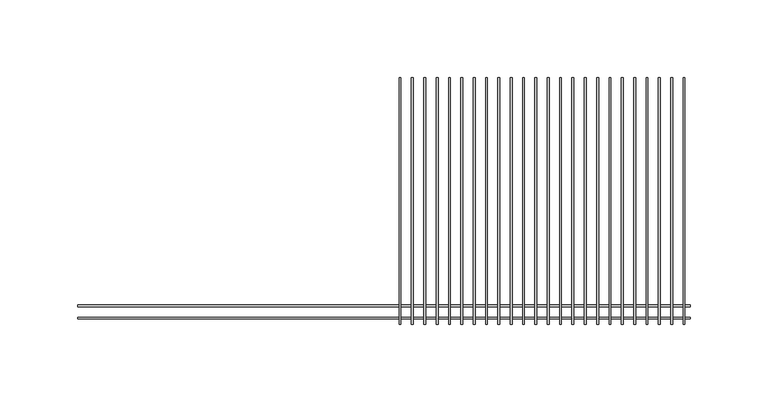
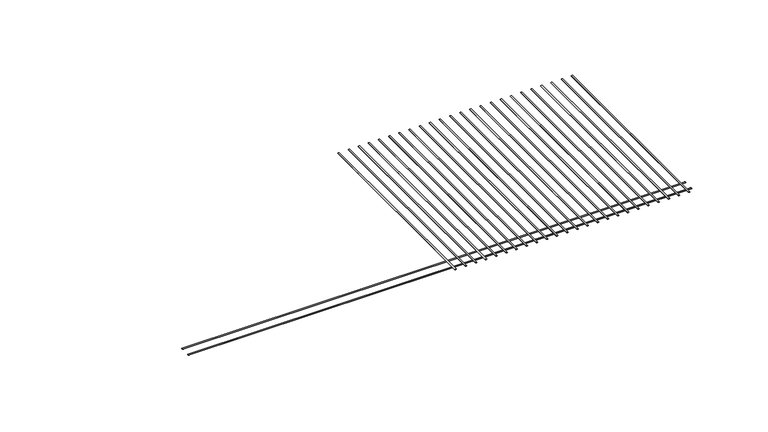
"""IFC4 building model written with IfcOpenShell, lengths in millimetres: proxy geometry, CRAi Generic Model Mesh Piece Face Based : CRAi Generic Model Mesh Piece Face Based."""

from ifc_helpers import new_model, si_unit, point, frame, origin, place, context, project, spatial, ellipse_curve, trimmed, source, transform, mapped, element, save
from ifc_brep_helpers import plane_surface, extruded_surface, advanced_brep


def generic_models_388356b2(model_context):
    return source(origin(), model_context, "Body", "AdvancedBrep", [
        advanced_brep(
        [(9.7234375, 79.3253906, -2.5796875), (10.9140625, 79.3253906, -2.5796875), (9.7234375, -79.3253906, -2.5796875), (10.9140625, -79.3253906, -2.5796875)],
        [
            (0, 1, ellipse_curve(frame((10.31875, 79.3253906, -2.5796875), z_axis=(0.0, 1.0, 0.0), x_axis=(1.0, 0.0, 0.0)), 0.5953125, 0.1984375)),
            (1, 0, ellipse_curve(frame((10.31875, 79.3253906, -2.5796875), z_axis=(0.0, 1.0, 0.0), x_axis=(1.0, 0.0, 0.0)), 0.5953125, 0.1984375)),
            (2, 3, ellipse_curve(frame((10.31875, -79.3253906, -2.5796875), z_axis=(0.0, -1.0, 0.0), x_axis=(1.0, 0.0, 0.0)), 0.5953125, 0.1984375)),
            (3, 2, ellipse_curve(frame((10.31875, -79.3253906, -2.5796875), z_axis=(0.0, -1.0, 0.0), x_axis=(1.0, 0.0, 0.0)), 0.5953125, 0.1984375)),
            (1, 3),
            (2, 0),
        ],
        [
            plane_surface(frame((10.31875, 79.3253906, -2.5796875), z_axis=(0.0, 1.0, 0.0), x_axis=(0.0, 0.0, 1.0))),
            plane_surface(frame((10.31875, -79.3253906, -2.5796875), z_axis=(0.0, -1.0, 0.0), x_axis=(0.0, 0.0, 1.0))),
            extruded_surface(trimmed(ellipse_curve(frame((10.31875, 79.3253906, -2.5796875), z_axis=(0.0, -1.0, 0.0), x_axis=(1.0, 0.0, 0.0)), 0.5953125, 0.1984375), [point((9.7234375, 79.3253906, -2.5796875))], [point((10.9140625, 79.3253906, -2.5796875))], True, "CARTESIAN"), (0.0, -158.6507812, 0.0), 158.6507812),
            extruded_surface(trimmed(ellipse_curve(frame((10.31875, 79.3253906, -2.5796875), z_axis=(0.0, -1.0, 0.0), x_axis=(1.0, 0.0, 0.0)), 0.5953125, 0.1984375), [point((10.9140625, 79.3253906, -2.5796875))], [point((9.7234375, 79.3253906, -2.5796875))], True, "CARTESIAN"), (0.0, -158.6507812, 0.0), 158.6507812),
        ],
        [
            (0, [[1, 2]]),
            (1, [[3, 4]]),
            (2, [[5, -3, 6, -2]]),
            (3, [[-6, -4, -5, -1]]),
        ],
    ),
        advanced_brep(
        [(17.6609375, 79.3253906, -2.5796875), (18.8515625, 79.3253906, -2.5796875), (17.6609375, -79.3253906, -2.5796875), (18.8515625, -79.3253906, -2.5796875)],
        [
            (0, 1, ellipse_curve(frame((18.25625, 79.3253906, -2.5796875), z_axis=(0.0, 1.0, 0.0), x_axis=(1.0, 0.0, 0.0)), 0.5953125, 0.1984375)),
            (1, 0, ellipse_curve(frame((18.25625, 79.3253906, -2.5796875), z_axis=(0.0, 1.0, 0.0), x_axis=(1.0, 0.0, 0.0)), 0.5953125, 0.1984375)),
            (2, 3, ellipse_curve(frame((18.25625, -79.3253906, -2.5796875), z_axis=(0.0, -1.0, 0.0), x_axis=(1.0, 0.0, 0.0)), 0.5953125, 0.1984375)),
            (3, 2, ellipse_curve(frame((18.25625, -79.3253906, -2.5796875), z_axis=(0.0, -1.0, 0.0), x_axis=(1.0, 0.0, 0.0)), 0.5953125, 0.1984375)),
            (1, 3),
            (2, 0),
        ],
        [
            plane_surface(frame((18.25625, 79.3253906, -2.5796875), z_axis=(0.0, 1.0, 0.0), x_axis=(0.0, 0.0, 1.0))),
            plane_surface(frame((18.25625, -79.3253906, -2.5796875), z_axis=(0.0, -1.0, 0.0), x_axis=(0.0, 0.0, 1.0))),
            extruded_surface(trimmed(ellipse_curve(frame((18.25625, 79.3253906, -2.5796875), z_axis=(0.0, -1.0, 0.0), x_axis=(1.0, 0.0, 0.0)), 0.5953125, 0.1984375), [point((17.6609375, 79.3253906, -2.5796875))], [point((18.8515625, 79.3253906, -2.5796875))], True, "CARTESIAN"), (0.0, -158.6507812, 0.0), 158.6507812),
            extruded_surface(trimmed(ellipse_curve(frame((18.25625, 79.3253906, -2.5796875), z_axis=(0.0, -1.0, 0.0), x_axis=(1.0, 0.0, 0.0)), 0.5953125, 0.1984375), [point((18.8515625, 79.3253906, -2.5796875))], [point((17.6609375, 79.3253906, -2.5796875))], True, "CARTESIAN"), (0.0, -158.6507812, 0.0), 158.6507812),
        ],
        [
            (0, [[1, 2]]),
            (1, [[3, 4]]),
            (2, [[5, -3, 6, -2]]),
            (3, [[-6, -4, -5, -1]]),
        ],
    ),
        advanced_brep(
        [(25.5984375, 79.3253906, -2.5796875), (26.7890625, 79.3253906, -2.5796875), (25.5984375, -79.3253906, -2.5796875), (26.7890625, -79.3253906, -2.5796875)],
        [
            (0, 1, ellipse_curve(frame((26.19375, 79.3253906, -2.5796875), z_axis=(0.0, 1.0, 0.0), x_axis=(1.0, 0.0, 0.0)), 0.5953125, 0.1984375)),
            (1, 0, ellipse_curve(frame((26.19375, 79.3253906, -2.5796875), z_axis=(0.0, 1.0, 0.0), x_axis=(1.0, 0.0, 0.0)), 0.5953125, 0.1984375)),
            (2, 3, ellipse_curve(frame((26.19375, -79.3253906, -2.5796875), z_axis=(0.0, -1.0, 0.0), x_axis=(1.0, 0.0, 0.0)), 0.5953125, 0.1984375)),
            (3, 2, ellipse_curve(frame((26.19375, -79.3253906, -2.5796875), z_axis=(0.0, -1.0, 0.0), x_axis=(1.0, 0.0, 0.0)), 0.5953125, 0.1984375)),
            (1, 3),
            (2, 0),
        ],
        [
            plane_surface(frame((26.19375, 79.3253906, -2.5796875), z_axis=(0.0, 1.0, 0.0), x_axis=(0.0, 0.0, 1.0))),
            plane_surface(frame((26.19375, -79.3253906, -2.5796875), z_axis=(0.0, -1.0, 0.0), x_axis=(0.0, 0.0, 1.0))),
            extruded_surface(trimmed(ellipse_curve(frame((26.19375, 79.3253906, -2.5796875), z_axis=(0.0, -1.0, 0.0), x_axis=(1.0, 0.0, 0.0)), 0.5953125, 0.1984375), [point((25.5984375, 79.3253906, -2.5796875))], [point((26.7890625, 79.3253906, -2.5796875))], True, "CARTESIAN"), (0.0, -158.6507812, 0.0), 158.6507812),
            extruded_surface(trimmed(ellipse_curve(frame((26.19375, 79.3253906, -2.5796875), z_axis=(0.0, -1.0, 0.0), x_axis=(1.0, 0.0, 0.0)), 0.5953125, 0.1984375), [point((26.7890625, 79.3253906, -2.5796875))], [point((25.5984375, 79.3253906, -2.5796875))], True, "CARTESIAN"), (0.0, -158.6507812, 0.0), 158.6507812),
        ],
        [
            (0, [[1, 2]]),
            (1, [[3, 4]]),
            (2, [[5, -3, 6, -2]]),
            (3, [[-6, -4, -5, -1]]),
        ],
    ),
        advanced_brep(
        [(33.5359375, 79.3253906, -2.5796875), (34.7265625, 79.3253906, -2.5796875), (33.5359375, -79.3253906, -2.5796875), (34.7265625, -79.3253906, -2.5796875)],
        [
            (0, 1, ellipse_curve(frame((34.13125, 79.3253906, -2.5796875), z_axis=(0.0, 1.0, 0.0), x_axis=(1.0, 0.0, 0.0)), 0.5953125, 0.1984375)),
            (1, 0, ellipse_curve(frame((34.13125, 79.3253906, -2.5796875), z_axis=(0.0, 1.0, 0.0), x_axis=(1.0, 0.0, 0.0)), 0.5953125, 0.1984375)),
            (2, 3, ellipse_curve(frame((34.13125, -79.3253906, -2.5796875), z_axis=(0.0, -1.0, 0.0), x_axis=(1.0, 0.0, 0.0)), 0.5953125, 0.1984375)),
            (3, 2, ellipse_curve(frame((34.13125, -79.3253906, -2.5796875), z_axis=(0.0, -1.0, 0.0), x_axis=(1.0, 0.0, 0.0)), 0.5953125, 0.1984375)),
            (1, 3),
            (2, 0),
        ],
        [
            plane_surface(frame((34.13125, 79.3253906, -2.5796875), z_axis=(0.0, 1.0, 0.0), x_axis=(0.0, 0.0, 1.0))),
            plane_surface(frame((34.13125, -79.3253906, -2.5796875), z_axis=(0.0, -1.0, 0.0), x_axis=(0.0, 0.0, 1.0))),
            extruded_surface(trimmed(ellipse_curve(frame((34.13125, 79.3253906, -2.5796875), z_axis=(0.0, -1.0, 0.0), x_axis=(1.0, 0.0, 0.0)), 0.5953125, 0.1984375), [point((33.5359375, 79.3253906, -2.5796875))], [point((34.7265625, 79.3253906, -2.5796875))], True, "CARTESIAN"), (0.0, -158.6507812, 0.0), 158.6507812),
            extruded_surface(trimmed(ellipse_curve(frame((34.13125, 79.3253906, -2.5796875), z_axis=(0.0, -1.0, 0.0), x_axis=(1.0, 0.0, 0.0)), 0.5953125, 0.1984375), [point((34.7265625, 79.3253906, -2.5796875))], [point((33.5359375, 79.3253906, -2.5796875))], True, "CARTESIAN"), (0.0, -158.6507812, 0.0), 158.6507812),
        ],
        [
            (0, [[1, 2]]),
            (1, [[3, 4]]),
            (2, [[5, -3, 6, -2]]),
            (3, [[-6, -4, -5, -1]]),
        ],
    ),
        advanced_brep(
        [(41.4734375, 79.3253906, -2.5796875), (42.6640625, 79.3253906, -2.5796875), (41.4734375, -79.3253906, -2.5796875), (42.6640625, -79.3253906, -2.5796875)],
        [
            (0, 1, ellipse_curve(frame((42.06875, 79.3253906, -2.5796875), z_axis=(0.0, 1.0, 0.0), x_axis=(1.0, 0.0, 0.0)), 0.5953125, 0.1984375)),
            (1, 0, ellipse_curve(frame((42.06875, 79.3253906, -2.5796875), z_axis=(0.0, 1.0, 0.0), x_axis=(1.0, 0.0, 0.0)), 0.5953125, 0.1984375)),
            (2, 3, ellipse_curve(frame((42.06875, -79.3253906, -2.5796875), z_axis=(0.0, -1.0, 0.0), x_axis=(1.0, 0.0, 0.0)), 0.5953125, 0.1984375)),
            (3, 2, ellipse_curve(frame((42.06875, -79.3253906, -2.5796875), z_axis=(0.0, -1.0, 0.0), x_axis=(1.0, 0.0, 0.0)), 0.5953125, 0.1984375)),
            (1, 3),
            (2, 0),
        ],
        [
            plane_surface(frame((42.06875, 79.3253906, -2.5796875), z_axis=(0.0, 1.0, 0.0), x_axis=(0.0, 0.0, 1.0))),
            plane_surface(frame((42.06875, -79.3253906, -2.5796875), z_axis=(0.0, -1.0, 0.0), x_axis=(0.0, 0.0, 1.0))),
            extruded_surface(trimmed(ellipse_curve(frame((42.06875, 79.3253906, -2.5796875), z_axis=(0.0, -1.0, 0.0), x_axis=(1.0, 0.0, 0.0)), 0.5953125, 0.1984375), [point((41.4734375, 79.3253906, -2.5796875))], [point((42.6640625, 79.3253906, -2.5796875))], True, "CARTESIAN"), (0.0, -158.6507812, 0.0), 158.6507812),
            extruded_surface(trimmed(ellipse_curve(frame((42.06875, 79.3253906, -2.5796875), z_axis=(0.0, -1.0, 0.0), x_axis=(1.0, 0.0, 0.0)), 0.5953125, 0.1984375), [point((42.6640625, 79.3253906, -2.5796875))], [point((41.4734375, 79.3253906, -2.5796875))], True, "CARTESIAN"), (0.0, -158.6507812, 0.0), 158.6507812),
        ],
        [
            (0, [[1, 2]]),
            (1, [[3, 4]]),
            (2, [[5, -3, 6, -2]]),
            (3, [[-6, -4, -5, -1]]),
        ],
    ),
        advanced_brep(
        [(49.4109375, 79.3253906, -2.5796875), (50.6015625, 79.3253906, -2.5796875), (49.4109375, -79.3253906, -2.5796875), (50.6015625, -79.3253906, -2.5796875)],
        [
            (0, 1, ellipse_curve(frame((50.00625, 79.3253906, -2.5796875), z_axis=(0.0, 1.0, 0.0), x_axis=(1.0, 0.0, 0.0)), 0.5953125, 0.1984375)),
            (1, 0, ellipse_curve(frame((50.00625, 79.3253906, -2.5796875), z_axis=(0.0, 1.0, 0.0), x_axis=(1.0, 0.0, 0.0)), 0.5953125, 0.1984375)),
            (2, 3, ellipse_curve(frame((50.00625, -79.3253906, -2.5796875), z_axis=(0.0, -1.0, 0.0), x_axis=(1.0, 0.0, 0.0)), 0.5953125, 0.1984375)),
            (3, 2, ellipse_curve(frame((50.00625, -79.3253906, -2.5796875), z_axis=(0.0, -1.0, 0.0), x_axis=(1.0, 0.0, 0.0)), 0.5953125, 0.1984375)),
            (1, 3),
            (2, 0),
        ],
        [
            plane_surface(frame((50.00625, 79.3253906, -2.5796875), z_axis=(0.0, 1.0, 0.0), x_axis=(0.0, 0.0, 1.0))),
            plane_surface(frame((50.00625, -79.3253906, -2.5796875), z_axis=(0.0, -1.0, 0.0), x_axis=(0.0, 0.0, 1.0))),
            extruded_surface(trimmed(ellipse_curve(frame((50.00625, 79.3253906, -2.5796875), z_axis=(0.0, -1.0, 0.0), x_axis=(1.0, 0.0, 0.0)), 0.5953125, 0.1984375), [point((49.4109375, 79.3253906, -2.5796875))], [point((50.6015625, 79.3253906, -2.5796875))], True, "CARTESIAN"), (0.0, -158.6507812, 0.0), 158.6507812),
            extruded_surface(trimmed(ellipse_curve(frame((50.00625, 79.3253906, -2.5796875), z_axis=(0.0, -1.0, 0.0), x_axis=(1.0, 0.0, 0.0)), 0.5953125, 0.1984375), [point((50.6015625, 79.3253906, -2.5796875))], [point((49.4109375, 79.3253906, -2.5796875))], True, "CARTESIAN"), (0.0, -158.6507812, 0.0), 158.6507812),
        ],
        [
            (0, [[1, 2]]),
            (1, [[3, 4]]),
            (2, [[5, -3, 6, -2]]),
            (3, [[-6, -4, -5, -1]]),
        ],
    ),
        advanced_brep(
        [(57.3484375, 79.3253906, -2.5796875), (58.5390625, 79.3253906, -2.5796875), (57.3484375, -79.3253906, -2.5796875), (58.5390625, -79.3253906, -2.5796875)],
        [
            (0, 1, ellipse_curve(frame((57.94375, 79.3253906, -2.5796875), z_axis=(0.0, 1.0, 0.0), x_axis=(1.0, 0.0, 0.0)), 0.5953125, 0.1984375)),
            (1, 0, ellipse_curve(frame((57.94375, 79.3253906, -2.5796875), z_axis=(0.0, 1.0, 0.0), x_axis=(1.0, 0.0, 0.0)), 0.5953125, 0.1984375)),
            (2, 3, ellipse_curve(frame((57.94375, -79.3253906, -2.5796875), z_axis=(0.0, -1.0, 0.0), x_axis=(1.0, 0.0, 0.0)), 0.5953125, 0.1984375)),
            (3, 2, ellipse_curve(frame((57.94375, -79.3253906, -2.5796875), z_axis=(0.0, -1.0, 0.0), x_axis=(1.0, 0.0, 0.0)), 0.5953125, 0.1984375)),
            (1, 3),
            (2, 0),
        ],
        [
            plane_surface(frame((57.94375, 79.3253906, -2.5796875), z_axis=(0.0, 1.0, 0.0), x_axis=(0.0, 0.0, 1.0))),
            plane_surface(frame((57.94375, -79.3253906, -2.5796875), z_axis=(0.0, -1.0, 0.0), x_axis=(0.0, 0.0, 1.0))),
            extruded_surface(trimmed(ellipse_curve(frame((57.94375, 79.3253906, -2.5796875), z_axis=(0.0, -1.0, 0.0), x_axis=(1.0, 0.0, 0.0)), 0.5953125, 0.1984375), [point((57.3484375, 79.3253906, -2.5796875))], [point((58.5390625, 79.3253906, -2.5796875))], True, "CARTESIAN"), (0.0, -158.6507812, 0.0), 158.6507812),
            extruded_surface(trimmed(ellipse_curve(frame((57.94375, 79.3253906, -2.5796875), z_axis=(0.0, -1.0, 0.0), x_axis=(1.0, 0.0, 0.0)), 0.5953125, 0.1984375), [point((58.5390625, 79.3253906, -2.5796875))], [point((57.3484375, 79.3253906, -2.5796875))], True, "CARTESIAN"), (0.0, -158.6507812, 0.0), 158.6507812),
        ],
        [
            (0, [[1, 2]]),
            (1, [[3, 4]]),
            (2, [[5, -3, 6, -2]]),
            (3, [[-6, -4, -5, -1]]),
        ],
    ),
        advanced_brep(
        [(65.2859375, 79.3253906, -2.5796875), (66.4765625, 79.3253906, -2.5796875), (65.2859375, -79.3253906, -2.5796875), (66.4765625, -79.3253906, -2.5796875)],
        [
            (0, 1, ellipse_curve(frame((65.88125, 79.3253906, -2.5796875), z_axis=(0.0, 1.0, 0.0), x_axis=(1.0, 0.0, 0.0)), 0.5953125, 0.1984375)),
            (1, 0, ellipse_curve(frame((65.88125, 79.3253906, -2.5796875), z_axis=(0.0, 1.0, 0.0), x_axis=(1.0, 0.0, 0.0)), 0.5953125, 0.1984375)),
            (2, 3, ellipse_curve(frame((65.88125, -79.3253906, -2.5796875), z_axis=(0.0, -1.0, 0.0), x_axis=(1.0, 0.0, 0.0)), 0.5953125, 0.1984375)),
            (3, 2, ellipse_curve(frame((65.88125, -79.3253906, -2.5796875), z_axis=(0.0, -1.0, 0.0), x_axis=(1.0, 0.0, 0.0)), 0.5953125, 0.1984375)),
            (1, 3),
            (2, 0),
        ],
        [
            plane_surface(frame((65.88125, 79.3253906, -2.5796875), z_axis=(0.0, 1.0, 0.0), x_axis=(0.0, 0.0, 1.0))),
            plane_surface(frame((65.88125, -79.3253906, -2.5796875), z_axis=(0.0, -1.0, 0.0), x_axis=(0.0, 0.0, 1.0))),
            extruded_surface(trimmed(ellipse_curve(frame((65.88125, 79.3253906, -2.5796875), z_axis=(0.0, -1.0, 0.0), x_axis=(1.0, 0.0, 0.0)), 0.5953125, 0.1984375), [point((65.2859375, 79.3253906, -2.5796875))], [point((66.4765625, 79.3253906, -2.5796875))], True, "CARTESIAN"), (0.0, -158.6507812, 0.0), 158.6507812),
            extruded_surface(trimmed(ellipse_curve(frame((65.88125, 79.3253906, -2.5796875), z_axis=(0.0, -1.0, 0.0), x_axis=(1.0, 0.0, 0.0)), 0.5953125, 0.1984375), [point((66.4765625, 79.3253906, -2.5796875))], [point((65.2859375, 79.3253906, -2.5796875))], True, "CARTESIAN"), (0.0, -158.6507812, 0.0), 158.6507812),
        ],
        [
            (0, [[1, 2]]),
            (1, [[3, 4]]),
            (2, [[5, -3, 6, -2]]),
            (3, [[-6, -4, -5, -1]]),
        ],
    ),
        advanced_brep(
        [(73.2234375, 79.3253906, -2.5796875), (74.4140625, 79.3253906, -2.5796875), (73.2234375, -79.3253906, -2.5796875), (74.4140625, -79.3253906, -2.5796875)],
        [
            (0, 1, ellipse_curve(frame((73.81875, 79.3253906, -2.5796875), z_axis=(0.0, 1.0, 0.0), x_axis=(1.0, 0.0, 0.0)), 0.5953125, 0.1984375)),
            (1, 0, ellipse_curve(frame((73.81875, 79.3253906, -2.5796875), z_axis=(0.0, 1.0, 0.0), x_axis=(1.0, 0.0, 0.0)), 0.5953125, 0.1984375)),
            (2, 3, ellipse_curve(frame((73.81875, -79.3253906, -2.5796875), z_axis=(0.0, -1.0, 0.0), x_axis=(1.0, 0.0, 0.0)), 0.5953125, 0.1984375)),
            (3, 2, ellipse_curve(frame((73.81875, -79.3253906, -2.5796875), z_axis=(0.0, -1.0, 0.0), x_axis=(1.0, 0.0, 0.0)), 0.5953125, 0.1984375)),
            (1, 3),
            (2, 0),
        ],
        [
            plane_surface(frame((73.81875, 79.3253906, -2.5796875), z_axis=(0.0, 1.0, 0.0), x_axis=(0.0, 0.0, 1.0))),
            plane_surface(frame((73.81875, -79.3253906, -2.5796875), z_axis=(0.0, -1.0, 0.0), x_axis=(0.0, 0.0, 1.0))),
            extruded_surface(trimmed(ellipse_curve(frame((73.81875, 79.3253906, -2.5796875), z_axis=(0.0, -1.0, 0.0), x_axis=(1.0, 0.0, 0.0)), 0.5953125, 0.1984375), [point((73.2234375, 79.3253906, -2.5796875))], [point((74.4140625, 79.3253906, -2.5796875))], True, "CARTESIAN"), (0.0, -158.6507812, 0.0), 158.6507812),
            extruded_surface(trimmed(ellipse_curve(frame((73.81875, 79.3253906, -2.5796875), z_axis=(0.0, -1.0, 0.0), x_axis=(1.0, 0.0, 0.0)), 0.5953125, 0.1984375), [point((74.4140625, 79.3253906, -2.5796875))], [point((73.2234375, 79.3253906, -2.5796875))], True, "CARTESIAN"), (0.0, -158.6507812, 0.0), 158.6507812),
        ],
        [
            (0, [[1, 2]]),
            (1, [[3, 4]]),
            (2, [[5, -3, 6, -2]]),
            (3, [[-6, -4, -5, -1]]),
        ],
    ),
        advanced_brep(
        [(81.1609375, 79.3253906, -2.5796875), (82.3515625, 79.3253906, -2.5796875), (81.1609375, -79.3253906, -2.5796875), (82.3515625, -79.3253906, -2.5796875)],
        [
            (0, 1, ellipse_curve(frame((81.75625, 79.3253906, -2.5796875), z_axis=(0.0, 1.0, 0.0), x_axis=(1.0, 0.0, 0.0)), 0.5953125, 0.1984375)),
            (1, 0, ellipse_curve(frame((81.75625, 79.3253906, -2.5796875), z_axis=(0.0, 1.0, 0.0), x_axis=(1.0, 0.0, 0.0)), 0.5953125, 0.1984375)),
            (2, 3, ellipse_curve(frame((81.75625, -79.3253906, -2.5796875), z_axis=(0.0, -1.0, 0.0), x_axis=(1.0, 0.0, 0.0)), 0.5953125, 0.1984375)),
            (3, 2, ellipse_curve(frame((81.75625, -79.3253906, -2.5796875), z_axis=(0.0, -1.0, 0.0), x_axis=(1.0, 0.0, 0.0)), 0.5953125, 0.1984375)),
            (1, 3),
            (2, 0),
        ],
        [
            plane_surface(frame((81.75625, 79.3253906, -2.5796875), z_axis=(0.0, 1.0, 0.0), x_axis=(0.0, 0.0, 1.0))),
            plane_surface(frame((81.75625, -79.3253906, -2.5796875), z_axis=(0.0, -1.0, 0.0), x_axis=(0.0, 0.0, 1.0))),
            extruded_surface(trimmed(ellipse_curve(frame((81.75625, 79.3253906, -2.5796875), z_axis=(0.0, -1.0, 0.0), x_axis=(1.0, 0.0, 0.0)), 0.5953125, 0.1984375), [point((81.1609375, 79.3253906, -2.5796875))], [point((82.3515625, 79.3253906, -2.5796875))], True, "CARTESIAN"), (0.0, -158.6507812, 0.0), 158.6507812),
            extruded_surface(trimmed(ellipse_curve(frame((81.75625, 79.3253906, -2.5796875), z_axis=(0.0, -1.0, 0.0), x_axis=(1.0, 0.0, 0.0)), 0.5953125, 0.1984375), [point((82.3515625, 79.3253906, -2.5796875))], [point((81.1609375, 79.3253906, -2.5796875))], True, "CARTESIAN"), (0.0, -158.6507812, 0.0), 158.6507812),
        ],
        [
            (0, [[1, 2]]),
            (1, [[3, 4]]),
            (2, [[5, -3, 6, -2]]),
            (3, [[-6, -4, -5, -1]]),
        ],
    ),
        advanced_brep(
        [(89.0984375, 79.3253906, -2.5796875), (90.2890625, 79.3253906, -2.5796875), (89.0984375, -79.3253906, -2.5796875), (90.2890625, -79.3253906, -2.5796875)],
        [
            (0, 1, ellipse_curve(frame((89.69375, 79.3253906, -2.5796875), z_axis=(0.0, 1.0, 0.0), x_axis=(1.0, 0.0, 0.0)), 0.5953125, 0.1984375)),
            (1, 0, ellipse_curve(frame((89.69375, 79.3253906, -2.5796875), z_axis=(0.0, 1.0, 0.0), x_axis=(1.0, 0.0, 0.0)), 0.5953125, 0.1984375)),
            (2, 3, ellipse_curve(frame((89.69375, -79.3253906, -2.5796875), z_axis=(0.0, -1.0, 0.0), x_axis=(1.0, 0.0, 0.0)), 0.5953125, 0.1984375)),
            (3, 2, ellipse_curve(frame((89.69375, -79.3253906, -2.5796875), z_axis=(0.0, -1.0, 0.0), x_axis=(1.0, 0.0, 0.0)), 0.5953125, 0.1984375)),
            (1, 3),
            (2, 0),
        ],
        [
            plane_surface(frame((89.69375, 79.3253906, -2.5796875), z_axis=(0.0, 1.0, 0.0), x_axis=(0.0, 0.0, 1.0))),
            plane_surface(frame((89.69375, -79.3253906, -2.5796875), z_axis=(0.0, -1.0, 0.0), x_axis=(0.0, 0.0, 1.0))),
            extruded_surface(trimmed(ellipse_curve(frame((89.69375, 79.3253906, -2.5796875), z_axis=(0.0, -1.0, 0.0), x_axis=(1.0, 0.0, 0.0)), 0.5953125, 0.1984375), [point((89.0984375, 79.3253906, -2.5796875))], [point((90.2890625, 79.3253906, -2.5796875))], True, "CARTESIAN"), (0.0, -158.6507812, 0.0), 158.6507812),
            extruded_surface(trimmed(ellipse_curve(frame((89.69375, 79.3253906, -2.5796875), z_axis=(0.0, -1.0, 0.0), x_axis=(1.0, 0.0, 0.0)), 0.5953125, 0.1984375), [point((90.2890625, 79.3253906, -2.5796875))], [point((89.0984375, 79.3253906, -2.5796875))], True, "CARTESIAN"), (0.0, -158.6507812, 0.0), 158.6507812),
        ],
        [
            (0, [[1, 2]]),
            (1, [[3, 4]]),
            (2, [[5, -3, 6, -2]]),
            (3, [[-6, -4, -5, -1]]),
        ],
    ),
        advanced_brep(
        [(97.0359375, 79.3253906, -2.5796875), (98.2265625, 79.3253906, -2.5796875), (97.0359375, -79.3253906, -2.5796875), (98.2265625, -79.3253906, -2.5796875)],
        [
            (0, 1, ellipse_curve(frame((97.63125, 79.3253906, -2.5796875), z_axis=(0.0, 1.0, 0.0), x_axis=(1.0, 0.0, 0.0)), 0.5953125, 0.1984375)),
            (1, 0, ellipse_curve(frame((97.63125, 79.3253906, -2.5796875), z_axis=(0.0, 1.0, 0.0), x_axis=(1.0, 0.0, 0.0)), 0.5953125, 0.1984375)),
            (2, 3, ellipse_curve(frame((97.63125, -79.3253906, -2.5796875), z_axis=(0.0, -1.0, 0.0), x_axis=(1.0, 0.0, 0.0)), 0.5953125, 0.1984375)),
            (3, 2, ellipse_curve(frame((97.63125, -79.3253906, -2.5796875), z_axis=(0.0, -1.0, 0.0), x_axis=(1.0, 0.0, 0.0)), 0.5953125, 0.1984375)),
            (1, 3),
            (2, 0),
        ],
        [
            plane_surface(frame((97.63125, 79.3253906, -2.5796875), z_axis=(0.0, 1.0, 0.0), x_axis=(0.0, 0.0, 1.0))),
            plane_surface(frame((97.63125, -79.3253906, -2.5796875), z_axis=(0.0, -1.0, 0.0), x_axis=(0.0, 0.0, 1.0))),
            extruded_surface(trimmed(ellipse_curve(frame((97.63125, 79.3253906, -2.5796875), z_axis=(0.0, -1.0, 0.0), x_axis=(1.0, 0.0, 0.0)), 0.5953125, 0.1984375), [point((97.0359375, 79.3253906, -2.5796875))], [point((98.2265625, 79.3253906, -2.5796875))], True, "CARTESIAN"), (0.0, -158.6507812, 0.0), 158.6507812),
            extruded_surface(trimmed(ellipse_curve(frame((97.63125, 79.3253906, -2.5796875), z_axis=(0.0, -1.0, 0.0), x_axis=(1.0, 0.0, 0.0)), 0.5953125, 0.1984375), [point((98.2265625, 79.3253906, -2.5796875))], [point((97.0359375, 79.3253906, -2.5796875))], True, "CARTESIAN"), (0.0, -158.6507812, 0.0), 158.6507812),
        ],
        [
            (0, [[1, 2]]),
            (1, [[3, 4]]),
            (2, [[5, -3, 6, -2]]),
            (3, [[-6, -4, -5, -1]]),
        ],
    ),
        advanced_brep(
        [(104.9734375, 79.3253906, -2.5796875), (106.1640625, 79.3253906, -2.5796875), (104.9734375, -79.3253906, -2.5796875), (106.1640625, -79.3253906, -2.5796875)],
        [
            (0, 1, ellipse_curve(frame((105.56875, 79.3253906, -2.5796875), z_axis=(0.0, 1.0, 0.0), x_axis=(1.0, 0.0, 0.0)), 0.5953125, 0.1984375)),
            (1, 0, ellipse_curve(frame((105.56875, 79.3253906, -2.5796875), z_axis=(0.0, 1.0, 0.0), x_axis=(1.0, 0.0, 0.0)), 0.5953125, 0.1984375)),
            (2, 3, ellipse_curve(frame((105.56875, -79.3253906, -2.5796875), z_axis=(0.0, -1.0, 0.0), x_axis=(1.0, 0.0, 0.0)), 0.5953125, 0.1984375)),
            (3, 2, ellipse_curve(frame((105.56875, -79.3253906, -2.5796875), z_axis=(0.0, -1.0, 0.0), x_axis=(1.0, 0.0, 0.0)), 0.5953125, 0.1984375)),
            (1, 3),
            (2, 0),
        ],
        [
            plane_surface(frame((105.56875, 79.3253906, -2.5796875), z_axis=(0.0, 1.0, 0.0), x_axis=(0.0, 0.0, 1.0))),
            plane_surface(frame((105.56875, -79.3253906, -2.5796875), z_axis=(0.0, -1.0, 0.0), x_axis=(0.0, 0.0, 1.0))),
            extruded_surface(trimmed(ellipse_curve(frame((105.56875, 79.3253906, -2.5796875), z_axis=(0.0, -1.0, 0.0), x_axis=(1.0, 0.0, 0.0)), 0.5953125, 0.1984375), [point((104.9734375, 79.3253906, -2.5796875))], [point((106.1640625, 79.3253906, -2.5796875))], True, "CARTESIAN"), (0.0, -158.6507812, 0.0), 158.6507812),
            extruded_surface(trimmed(ellipse_curve(frame((105.56875, 79.3253906, -2.5796875), z_axis=(0.0, -1.0, 0.0), x_axis=(1.0, 0.0, 0.0)), 0.5953125, 0.1984375), [point((106.1640625, 79.3253906, -2.5796875))], [point((104.9734375, 79.3253906, -2.5796875))], True, "CARTESIAN"), (0.0, -158.6507812, 0.0), 158.6507812),
        ],
        [
            (0, [[1, 2]]),
            (1, [[3, 4]]),
            (2, [[5, -3, 6, -2]]),
            (3, [[-6, -4, -5, -1]]),
        ],
    ),
        advanced_brep(
        [(112.9109375, 79.3253906, -2.5796875), (114.1015625, 79.3253906, -2.5796875), (112.9109375, -79.3253906, -2.5796875), (114.1015625, -79.3253906, -2.5796875)],
        [
            (0, 1, ellipse_curve(frame((113.50625, 79.3253906, -2.5796875), z_axis=(0.0, 1.0, 0.0), x_axis=(1.0, 0.0, 0.0)), 0.5953125, 0.1984375)),
            (1, 0, ellipse_curve(frame((113.50625, 79.3253906, -2.5796875), z_axis=(0.0, 1.0, 0.0), x_axis=(1.0, 0.0, 0.0)), 0.5953125, 0.1984375)),
            (2, 3, ellipse_curve(frame((113.50625, -79.3253906, -2.5796875), z_axis=(0.0, -1.0, 0.0), x_axis=(1.0, 0.0, 0.0)), 0.5953125, 0.1984375)),
            (3, 2, ellipse_curve(frame((113.50625, -79.3253906, -2.5796875), z_axis=(0.0, -1.0, 0.0), x_axis=(1.0, 0.0, 0.0)), 0.5953125, 0.1984375)),
            (1, 3),
            (2, 0),
        ],
        [
            plane_surface(frame((113.50625, 79.3253906, -2.5796875), z_axis=(0.0, 1.0, 0.0), x_axis=(0.0, 0.0, 1.0))),
            plane_surface(frame((113.50625, -79.3253906, -2.5796875), z_axis=(0.0, -1.0, 0.0), x_axis=(0.0, 0.0, 1.0))),
            extruded_surface(trimmed(ellipse_curve(frame((113.50625, 79.3253906, -2.5796875), z_axis=(0.0, -1.0, 0.0), x_axis=(1.0, 0.0, 0.0)), 0.5953125, 0.1984375), [point((112.9109375, 79.3253906, -2.5796875))], [point((114.1015625, 79.3253906, -2.5796875))], True, "CARTESIAN"), (0.0, -158.6507812, 0.0), 158.6507812),
            extruded_surface(trimmed(ellipse_curve(frame((113.50625, 79.3253906, -2.5796875), z_axis=(0.0, -1.0, 0.0), x_axis=(1.0, 0.0, 0.0)), 0.5953125, 0.1984375), [point((114.1015625, 79.3253906, -2.5796875))], [point((112.9109375, 79.3253906, -2.5796875))], True, "CARTESIAN"), (0.0, -158.6507812, 0.0), 158.6507812),
        ],
        [
            (0, [[1, 2]]),
            (1, [[3, 4]]),
            (2, [[5, -3, 6, -2]]),
            (3, [[-6, -4, -5, -1]]),
        ],
    ),
        advanced_brep(
        [(120.8484375, 79.3253906, -2.5796875), (122.0390625, 79.3253906, -2.5796875), (120.8484375, -79.3253906, -2.5796875), (122.0390625, -79.3253906, -2.5796875)],
        [
            (0, 1, ellipse_curve(frame((121.44375, 79.3253906, -2.5796875), z_axis=(0.0, 1.0, 0.0), x_axis=(1.0, 0.0, 0.0)), 0.5953125, 0.1984375)),
            (1, 0, ellipse_curve(frame((121.44375, 79.3253906, -2.5796875), z_axis=(0.0, 1.0, 0.0), x_axis=(1.0, 0.0, 0.0)), 0.5953125, 0.1984375)),
            (2, 3, ellipse_curve(frame((121.44375, -79.3253906, -2.5796875), z_axis=(0.0, -1.0, 0.0), x_axis=(1.0, 0.0, 0.0)), 0.5953125, 0.1984375)),
            (3, 2, ellipse_curve(frame((121.44375, -79.3253906, -2.5796875), z_axis=(0.0, -1.0, 0.0), x_axis=(1.0, 0.0, 0.0)), 0.5953125, 0.1984375)),
            (1, 3),
            (2, 0),
        ],
        [
            plane_surface(frame((121.44375, 79.3253906, -2.5796875), z_axis=(0.0, 1.0, 0.0), x_axis=(0.0, 0.0, 1.0))),
            plane_surface(frame((121.44375, -79.3253906, -2.5796875), z_axis=(0.0, -1.0, 0.0), x_axis=(0.0, 0.0, 1.0))),
            extruded_surface(trimmed(ellipse_curve(frame((121.44375, 79.3253906, -2.5796875), z_axis=(0.0, -1.0, 0.0), x_axis=(1.0, 0.0, 0.0)), 0.5953125, 0.1984375), [point((120.8484375, 79.3253906, -2.5796875))], [point((122.0390625, 79.3253906, -2.5796875))], True, "CARTESIAN"), (0.0, -158.6507812, 0.0), 158.6507812),
            extruded_surface(trimmed(ellipse_curve(frame((121.44375, 79.3253906, -2.5796875), z_axis=(0.0, -1.0, 0.0), x_axis=(1.0, 0.0, 0.0)), 0.5953125, 0.1984375), [point((122.0390625, 79.3253906, -2.5796875))], [point((120.8484375, 79.3253906, -2.5796875))], True, "CARTESIAN"), (0.0, -158.6507812, 0.0), 158.6507812),
        ],
        [
            (0, [[1, 2]]),
            (1, [[3, 4]]),
            (2, [[5, -3, 6, -2]]),
            (3, [[-6, -4, -5, -1]]),
        ],
    ),
        advanced_brep(
        [(128.7859375, 79.3253906, -2.5796875), (129.9765625, 79.3253906, -2.5796875), (128.7859375, -79.3253906, -2.5796875), (129.9765625, -79.3253906, -2.5796875)],
        [
            (0, 1, ellipse_curve(frame((129.38125, 79.3253906, -2.5796875), z_axis=(0.0, 1.0, 0.0), x_axis=(1.0, 0.0, 0.0)), 0.5953125, 0.1984375)),
            (1, 0, ellipse_curve(frame((129.38125, 79.3253906, -2.5796875), z_axis=(0.0, 1.0, 0.0), x_axis=(1.0, 0.0, 0.0)), 0.5953125, 0.1984375)),
            (2, 3, ellipse_curve(frame((129.38125, -79.3253906, -2.5796875), z_axis=(0.0, -1.0, 0.0), x_axis=(1.0, 0.0, 0.0)), 0.5953125, 0.1984375)),
            (3, 2, ellipse_curve(frame((129.38125, -79.3253906, -2.5796875), z_axis=(0.0, -1.0, 0.0), x_axis=(1.0, 0.0, 0.0)), 0.5953125, 0.1984375)),
            (1, 3),
            (2, 0),
        ],
        [
            plane_surface(frame((129.38125, 79.3253906, -2.5796875), z_axis=(0.0, 1.0, 0.0), x_axis=(0.0, 0.0, 1.0))),
            plane_surface(frame((129.38125, -79.3253906, -2.5796875), z_axis=(0.0, -1.0, 0.0), x_axis=(0.0, 0.0, 1.0))),
            extruded_surface(trimmed(ellipse_curve(frame((129.38125, 79.3253906, -2.5796875), z_axis=(0.0, -1.0, 0.0), x_axis=(1.0, 0.0, 0.0)), 0.5953125, 0.1984375), [point((128.7859375, 79.3253906, -2.5796875))], [point((129.9765625, 79.3253906, -2.5796875))], True, "CARTESIAN"), (0.0, -158.6507812, 0.0), 158.6507812),
            extruded_surface(trimmed(ellipse_curve(frame((129.38125, 79.3253906, -2.5796875), z_axis=(0.0, -1.0, 0.0), x_axis=(1.0, 0.0, 0.0)), 0.5953125, 0.1984375), [point((129.9765625, 79.3253906, -2.5796875))], [point((128.7859375, 79.3253906, -2.5796875))], True, "CARTESIAN"), (0.0, -158.6507812, 0.0), 158.6507812),
        ],
        [
            (0, [[1, 2]]),
            (1, [[3, 4]]),
            (2, [[5, -3, 6, -2]]),
            (3, [[-6, -4, -5, -1]]),
        ],
    ),
        advanced_brep(
        [(136.7234375, 79.3253906, -2.5796875), (137.9140625, 79.3253906, -2.5796875), (136.7234375, -79.3253906, -2.5796875), (137.9140625, -79.3253906, -2.5796875)],
        [
            (0, 1, ellipse_curve(frame((137.31875, 79.3253906, -2.5796875), z_axis=(0.0, 1.0, 0.0), x_axis=(1.0, 0.0, 0.0)), 0.5953125, 0.1984375)),
            (1, 0, ellipse_curve(frame((137.31875, 79.3253906, -2.5796875), z_axis=(0.0, 1.0, 0.0), x_axis=(1.0, 0.0, 0.0)), 0.5953125, 0.1984375)),
            (2, 3, ellipse_curve(frame((137.31875, -79.3253906, -2.5796875), z_axis=(0.0, -1.0, 0.0), x_axis=(1.0, 0.0, 0.0)), 0.5953125, 0.1984375)),
            (3, 2, ellipse_curve(frame((137.31875, -79.3253906, -2.5796875), z_axis=(0.0, -1.0, 0.0), x_axis=(1.0, 0.0, 0.0)), 0.5953125, 0.1984375)),
            (1, 3),
            (2, 0),
        ],
        [
            plane_surface(frame((137.31875, 79.3253906, -2.5796875), z_axis=(0.0, 1.0, 0.0), x_axis=(0.0, 0.0, 1.0))),
            plane_surface(frame((137.31875, -79.3253906, -2.5796875), z_axis=(0.0, -1.0, 0.0), x_axis=(0.0, 0.0, 1.0))),
            extruded_surface(trimmed(ellipse_curve(frame((137.31875, 79.3253906, -2.5796875), z_axis=(0.0, -1.0, 0.0), x_axis=(1.0, 0.0, 0.0)), 0.5953125, 0.1984375), [point((136.7234375, 79.3253906, -2.5796875))], [point((137.9140625, 79.3253906, -2.5796875))], True, "CARTESIAN"), (0.0, -158.6507812, 0.0), 158.6507812),
            extruded_surface(trimmed(ellipse_curve(frame((137.31875, 79.3253906, -2.5796875), z_axis=(0.0, -1.0, 0.0), x_axis=(1.0, 0.0, 0.0)), 0.5953125, 0.1984375), [point((137.9140625, 79.3253906, -2.5796875))], [point((136.7234375, 79.3253906, -2.5796875))], True, "CARTESIAN"), (0.0, -158.6507812, 0.0), 158.6507812),
        ],
        [
            (0, [[1, 2]]),
            (1, [[3, 4]]),
            (2, [[5, -3, 6, -2]]),
            (3, [[-6, -4, -5, -1]]),
        ],
    ),
        advanced_brep(
        [(144.6609375, 79.3253906, -2.5796875), (145.8515625, 79.3253906, -2.5796875), (144.6609375, -79.3253906, -2.5796875), (145.8515625, -79.3253906, -2.5796875)],
        [
            (0, 1, ellipse_curve(frame((145.25625, 79.3253906, -2.5796875), z_axis=(0.0, 1.0, 0.0), x_axis=(1.0, 0.0, 0.0)), 0.5953125, 0.1984375)),
            (1, 0, ellipse_curve(frame((145.25625, 79.3253906, -2.5796875), z_axis=(0.0, 1.0, 0.0), x_axis=(1.0, 0.0, 0.0)), 0.5953125, 0.1984375)),
            (2, 3, ellipse_curve(frame((145.25625, -79.3253906, -2.5796875), z_axis=(0.0, -1.0, 0.0), x_axis=(1.0, 0.0, 0.0)), 0.5953125, 0.1984375)),
            (3, 2, ellipse_curve(frame((145.25625, -79.3253906, -2.5796875), z_axis=(0.0, -1.0, 0.0), x_axis=(1.0, 0.0, 0.0)), 0.5953125, 0.1984375)),
            (1, 3),
            (2, 0),
        ],
        [
            plane_surface(frame((145.25625, 79.3253906, -2.5796875), z_axis=(0.0, 1.0, 0.0), x_axis=(0.0, 0.0, 1.0))),
            plane_surface(frame((145.25625, -79.3253906, -2.5796875), z_axis=(0.0, -1.0, 0.0), x_axis=(0.0, 0.0, 1.0))),
            extruded_surface(trimmed(ellipse_curve(frame((145.25625, 79.3253906, -2.5796875), z_axis=(0.0, -1.0, 0.0), x_axis=(1.0, 0.0, 0.0)), 0.5953125, 0.1984375), [point((144.6609375, 79.3253906, -2.5796875))], [point((145.8515625, 79.3253906, -2.5796875))], True, "CARTESIAN"), (0.0, -158.6507812, 0.0), 158.6507812),
            extruded_surface(trimmed(ellipse_curve(frame((145.25625, 79.3253906, -2.5796875), z_axis=(0.0, -1.0, 0.0), x_axis=(1.0, 0.0, 0.0)), 0.5953125, 0.1984375), [point((145.8515625, 79.3253906, -2.5796875))], [point((144.6609375, 79.3253906, -2.5796875))], True, "CARTESIAN"), (0.0, -158.6507812, 0.0), 158.6507812),
        ],
        [
            (0, [[1, 2]]),
            (1, [[3, 4]]),
            (2, [[5, -3, 6, -2]]),
            (3, [[-6, -4, -5, -1]]),
        ],
    ),
        advanced_brep(
        [(152.5984375, 79.3253906, -2.5796875), (153.7890625, 79.3253906, -2.5796875), (152.5984375, -79.3253906, -2.5796875), (153.7890625, -79.3253906, -2.5796875)],
        [
            (0, 1, ellipse_curve(frame((153.19375, 79.3253906, -2.5796875), z_axis=(0.0, 1.0, 0.0), x_axis=(1.0, 0.0, 0.0)), 0.5953125, 0.1984375)),
            (1, 0, ellipse_curve(frame((153.19375, 79.3253906, -2.5796875), z_axis=(0.0, 1.0, 0.0), x_axis=(1.0, 0.0, 0.0)), 0.5953125, 0.1984375)),
            (2, 3, ellipse_curve(frame((153.19375, -79.3253906, -2.5796875), z_axis=(0.0, -1.0, 0.0), x_axis=(1.0, 0.0, 0.0)), 0.5953125, 0.1984375)),
            (3, 2, ellipse_curve(frame((153.19375, -79.3253906, -2.5796875), z_axis=(0.0, -1.0, 0.0), x_axis=(1.0, 0.0, 0.0)), 0.5953125, 0.1984375)),
            (1, 3),
            (2, 0),
        ],
        [
            plane_surface(frame((153.19375, 79.3253906, -2.5796875), z_axis=(0.0, 1.0, 0.0), x_axis=(0.0, 0.0, 1.0))),
            plane_surface(frame((153.19375, -79.3253906, -2.5796875), z_axis=(0.0, -1.0, 0.0), x_axis=(0.0, 0.0, 1.0))),
            extruded_surface(trimmed(ellipse_curve(frame((153.19375, 79.3253906, -2.5796875), z_axis=(0.0, -1.0, 0.0), x_axis=(1.0, 0.0, 0.0)), 0.5953125, 0.1984375), [point((152.5984375, 79.3253906, -2.5796875))], [point((153.7890625, 79.3253906, -2.5796875))], True, "CARTESIAN"), (0.0, -158.6507812, 0.0), 158.6507812),
            extruded_surface(trimmed(ellipse_curve(frame((153.19375, 79.3253906, -2.5796875), z_axis=(0.0, -1.0, 0.0), x_axis=(1.0, 0.0, 0.0)), 0.5953125, 0.1984375), [point((153.7890625, 79.3253906, -2.5796875))], [point((152.5984375, 79.3253906, -2.5796875))], True, "CARTESIAN"), (0.0, -158.6507812, 0.0), 158.6507812),
        ],
        [
            (0, [[1, 2]]),
            (1, [[3, 4]]),
            (2, [[5, -3, 6, -2]]),
            (3, [[-6, -4, -5, -1]]),
        ],
    ),
        advanced_brep(
        [(160.5359375, 79.3253906, -2.5796875), (161.7265625, 79.3253906, -2.5796875), (160.5359375, -79.3253906, -2.5796875), (161.7265625, -79.3253906, -2.5796875)],
        [
            (0, 1, ellipse_curve(frame((161.13125, 79.3253906, -2.5796875), z_axis=(0.0, 1.0, 0.0), x_axis=(1.0, 0.0, 0.0)), 0.5953125, 0.1984375)),
            (1, 0, ellipse_curve(frame((161.13125, 79.3253906, -2.5796875), z_axis=(0.0, 1.0, 0.0), x_axis=(1.0, 0.0, 0.0)), 0.5953125, 0.1984375)),
            (2, 3, ellipse_curve(frame((161.13125, -79.3253906, -2.5796875), z_axis=(0.0, -1.0, 0.0), x_axis=(1.0, 0.0, 0.0)), 0.5953125, 0.1984375)),
            (3, 2, ellipse_curve(frame((161.13125, -79.3253906, -2.5796875), z_axis=(0.0, -1.0, 0.0), x_axis=(1.0, 0.0, 0.0)), 0.5953125, 0.1984375)),
            (1, 3),
            (2, 0),
        ],
        [
            plane_surface(frame((161.13125, 79.3253906, -2.5796875), z_axis=(0.0, 1.0, 0.0), x_axis=(0.0, 0.0, 1.0))),
            plane_surface(frame((161.13125, -79.3253906, -2.5796875), z_axis=(0.0, -1.0, 0.0), x_axis=(0.0, 0.0, 1.0))),
            extruded_surface(trimmed(ellipse_curve(frame((161.13125, 79.3253906, -2.5796875), z_axis=(0.0, -1.0, 0.0), x_axis=(1.0, 0.0, 0.0)), 0.5953125, 0.1984375), [point((160.5359375, 79.3253906, -2.5796875))], [point((161.7265625, 79.3253906, -2.5796875))], True, "CARTESIAN"), (0.0, -158.6507812, 0.0), 158.6507812),
            extruded_surface(trimmed(ellipse_curve(frame((161.13125, 79.3253906, -2.5796875), z_axis=(0.0, -1.0, 0.0), x_axis=(1.0, 0.0, 0.0)), 0.5953125, 0.1984375), [point((161.7265625, 79.3253906, -2.5796875))], [point((160.5359375, 79.3253906, -2.5796875))], True, "CARTESIAN"), (0.0, -158.6507812, 0.0), 158.6507812),
        ],
        [
            (0, [[1, 2]]),
            (1, [[3, 4]]),
            (2, [[5, -3, 6, -2]]),
            (3, [[-6, -4, -5, -1]]),
        ],
    ),
        advanced_brep(
        [(168.4734375, 79.3253906, -2.5796875), (169.6640625, 79.3253906, -2.5796875), (168.4734375, -79.3253906, -2.5796875), (169.6640625, -79.3253906, -2.5796875)],
        [
            (0, 1, ellipse_curve(frame((169.06875, 79.3253906, -2.5796875), z_axis=(0.0, 1.0, 0.0), x_axis=(1.0, 0.0, 0.0)), 0.5953125, 0.1984375)),
            (1, 0, ellipse_curve(frame((169.06875, 79.3253906, -2.5796875), z_axis=(0.0, 1.0, 0.0), x_axis=(1.0, 0.0, 0.0)), 0.5953125, 0.1984375)),
            (2, 3, ellipse_curve(frame((169.06875, -79.3253906, -2.5796875), z_axis=(0.0, -1.0, 0.0), x_axis=(1.0, 0.0, 0.0)), 0.5953125, 0.1984375)),
            (3, 2, ellipse_curve(frame((169.06875, -79.3253906, -2.5796875), z_axis=(0.0, -1.0, 0.0), x_axis=(1.0, 0.0, 0.0)), 0.5953125, 0.1984375)),
            (1, 3),
            (2, 0),
        ],
        [
            plane_surface(frame((169.06875, 79.3253906, -2.5796875), z_axis=(0.0, 1.0, 0.0), x_axis=(0.0, 0.0, 1.0))),
            plane_surface(frame((169.06875, -79.3253906, -2.5796875), z_axis=(0.0, -1.0, 0.0), x_axis=(0.0, 0.0, 1.0))),
            extruded_surface(trimmed(ellipse_curve(frame((169.06875, 79.3253906, -2.5796875), z_axis=(0.0, -1.0, 0.0), x_axis=(1.0, 0.0, 0.0)), 0.5953125, 0.1984375), [point((168.4734375, 79.3253906, -2.5796875))], [point((169.6640625, 79.3253906, -2.5796875))], True, "CARTESIAN"), (0.0, -158.6507812, 0.0), 158.6507812),
            extruded_surface(trimmed(ellipse_curve(frame((169.06875, 79.3253906, -2.5796875), z_axis=(0.0, -1.0, 0.0), x_axis=(1.0, 0.0, 0.0)), 0.5953125, 0.1984375), [point((169.6640625, 79.3253906, -2.5796875))], [point((168.4734375, 79.3253906, -2.5796875))], True, "CARTESIAN"), (0.0, -158.6507812, 0.0), 158.6507812),
        ],
        [
            (0, [[1, 2]]),
            (1, [[3, 4]]),
            (2, [[5, -3, 6, -2]]),
            (3, [[-6, -4, -5, -1]]),
        ],
    ),
        advanced_brep(
        [(176.4109375, 79.3253906, -2.5796875), (177.6015625, 79.3253906, -2.5796875), (176.4109375, -79.3253906, -2.5796875), (177.6015625, -79.3253906, -2.5796875)],
        [
            (0, 1, ellipse_curve(frame((177.00625, 79.3253906, -2.5796875), z_axis=(0.0, 1.0, 0.0), x_axis=(1.0, 0.0, 0.0)), 0.5953125, 0.1984375)),
            (1, 0, ellipse_curve(frame((177.00625, 79.3253906, -2.5796875), z_axis=(0.0, 1.0, 0.0), x_axis=(1.0, 0.0, 0.0)), 0.5953125, 0.1984375)),
            (2, 3, ellipse_curve(frame((177.00625, -79.3253906, -2.5796875), z_axis=(0.0, -1.0, 0.0), x_axis=(1.0, 0.0, 0.0)), 0.5953125, 0.1984375)),
            (3, 2, ellipse_curve(frame((177.00625, -79.3253906, -2.5796875), z_axis=(0.0, -1.0, 0.0), x_axis=(1.0, 0.0, 0.0)), 0.5953125, 0.1984375)),
            (1, 3),
            (2, 0),
        ],
        [
            plane_surface(frame((177.00625, 79.3253906, -2.5796875), z_axis=(0.0, 1.0, 0.0), x_axis=(0.0, 0.0, 1.0))),
            plane_surface(frame((177.00625, -79.3253906, -2.5796875), z_axis=(0.0, -1.0, 0.0), x_axis=(0.0, 0.0, 1.0))),
            extruded_surface(trimmed(ellipse_curve(frame((177.00625, 79.3253906, -2.5796875), z_axis=(0.0, -1.0, 0.0), x_axis=(1.0, 0.0, 0.0)), 0.5953125, 0.1984375), [point((176.4109375, 79.3253906, -2.5796875))], [point((177.6015625, 79.3253906, -2.5796875))], True, "CARTESIAN"), (0.0, -158.6507812, 0.0), 158.6507812),
            extruded_surface(trimmed(ellipse_curve(frame((177.00625, 79.3253906, -2.5796875), z_axis=(0.0, -1.0, 0.0), x_axis=(1.0, 0.0, 0.0)), 0.5953125, 0.1984375), [point((177.6015625, 79.3253906, -2.5796875))], [point((176.4109375, 79.3253906, -2.5796875))], True, "CARTESIAN"), (0.0, -158.6507812, 0.0), 158.6507812),
        ],
        [
            (0, [[1, 2]]),
            (1, [[3, 4]]),
            (2, [[5, -3, 6, -2]]),
            (3, [[-6, -4, -5, -1]]),
        ],
    ),
        advanced_brep(
        [(184.3484375, 79.3253906, -2.5796875), (185.5390625, 79.3253906, -2.5796875), (184.3484375, -79.3253906, -2.5796875), (185.5390625, -79.3253906, -2.5796875)],
        [
            (0, 1, ellipse_curve(frame((184.94375, 79.3253906, -2.5796875), z_axis=(0.0, 1.0, 0.0), x_axis=(1.0, 0.0, 0.0)), 0.5953125, 0.1984375)),
            (1, 0, ellipse_curve(frame((184.94375, 79.3253906, -2.5796875), z_axis=(0.0, 1.0, 0.0), x_axis=(1.0, 0.0, 0.0)), 0.5953125, 0.1984375)),
            (2, 3, ellipse_curve(frame((184.94375, -79.3253906, -2.5796875), z_axis=(0.0, -1.0, 0.0), x_axis=(1.0, 0.0, 0.0)), 0.5953125, 0.1984375)),
            (3, 2, ellipse_curve(frame((184.94375, -79.3253906, -2.5796875), z_axis=(0.0, -1.0, 0.0), x_axis=(1.0, 0.0, 0.0)), 0.5953125, 0.1984375)),
            (1, 3),
            (2, 0),
        ],
        [
            plane_surface(frame((184.94375, 79.3253906, -2.5796875), z_axis=(0.0, 1.0, 0.0), x_axis=(0.0, 0.0, 1.0))),
            plane_surface(frame((184.94375, -79.3253906, -2.5796875), z_axis=(0.0, -1.0, 0.0), x_axis=(0.0, 0.0, 1.0))),
            extruded_surface(trimmed(ellipse_curve(frame((184.94375, 79.3253906, -2.5796875), z_axis=(0.0, -1.0, 0.0), x_axis=(1.0, 0.0, 0.0)), 0.5953125, 0.1984375), [point((184.3484375, 79.3253906, -2.5796875))], [point((185.5390625, 79.3253906, -2.5796875))], True, "CARTESIAN"), (0.0, -158.6507812, 0.0), 158.6507812),
            extruded_surface(trimmed(ellipse_curve(frame((184.94375, 79.3253906, -2.5796875), z_axis=(0.0, -1.0, 0.0), x_axis=(1.0, 0.0, 0.0)), 0.5953125, 0.1984375), [point((185.5390625, 79.3253906, -2.5796875))], [point((184.3484375, 79.3253906, -2.5796875))], True, "CARTESIAN"), (0.0, -158.6507812, 0.0), 158.6507812),
        ],
        [
            (0, [[1, 2]]),
            (1, [[3, 4]]),
            (2, [[5, -3, 6, -2]]),
            (3, [[-6, -4, -5, -1]]),
        ],
    ),
        advanced_brep(
        [(192.2859375, 79.3253906, -2.5796875), (193.4765625, 79.3253906, -2.5796875), (192.2859375, -79.3253906, -2.5796875), (193.4765625, -79.3253906, -2.5796875)],
        [
            (0, 1, ellipse_curve(frame((192.88125, 79.3253906, -2.5796875), z_axis=(0.0, 1.0, 0.0), x_axis=(1.0, 0.0, 0.0)), 0.5953125, 0.1984375)),
            (1, 0, ellipse_curve(frame((192.88125, 79.3253906, -2.5796875), z_axis=(0.0, 1.0, 0.0), x_axis=(1.0, 0.0, 0.0)), 0.5953125, 0.1984375)),
            (2, 3, ellipse_curve(frame((192.88125, -79.3253906, -2.5796875), z_axis=(0.0, -1.0, 0.0), x_axis=(1.0, 0.0, 0.0)), 0.5953125, 0.1984375)),
            (3, 2, ellipse_curve(frame((192.88125, -79.3253906, -2.5796875), z_axis=(0.0, -1.0, 0.0), x_axis=(1.0, 0.0, 0.0)), 0.5953125, 0.1984375)),
            (1, 3),
            (2, 0),
        ],
        [
            plane_surface(frame((192.88125, 79.3253906, -2.5796875), z_axis=(0.0, 1.0, 0.0), x_axis=(0.0, 0.0, 1.0))),
            plane_surface(frame((192.88125, -79.3253906, -2.5796875), z_axis=(0.0, -1.0, 0.0), x_axis=(0.0, 0.0, 1.0))),
            extruded_surface(trimmed(ellipse_curve(frame((192.88125, 79.3253906, -2.5796875), z_axis=(0.0, -1.0, 0.0), x_axis=(1.0, 0.0, 0.0)), 0.5953125, 0.1984375), [point((192.2859375, 79.3253906, -2.5796875))], [point((193.4765625, 79.3253906, -2.5796875))], True, "CARTESIAN"), (0.0, -158.6507812, 0.0), 158.6507812),
            extruded_surface(trimmed(ellipse_curve(frame((192.88125, 79.3253906, -2.5796875), z_axis=(0.0, -1.0, 0.0), x_axis=(1.0, 0.0, 0.0)), 0.5953125, 0.1984375), [point((193.4765625, 79.3253906, -2.5796875))], [point((192.2859375, 79.3253906, -2.5796875))], True, "CARTESIAN"), (0.0, -158.6507812, 0.0), 158.6507812),
        ],
        [
            (0, [[1, 2]]),
            (1, [[3, 4]]),
            (2, [[5, -3, 6, -2]]),
            (3, [[-6, -4, -5, -1]]),
        ],
    ),
        advanced_brep(
        [(-196.85, -76.0511719, -2.9765625), (-196.85, -74.8605469, -2.9765625), (196.85, -76.0511719, -2.9765625), (196.85, -74.8605469, -2.9765625)],
        [
            (0, 1, ellipse_curve(frame((-196.85, -75.4558594, -2.9765625), z_axis=(-1.0, 0.0, 0.0), x_axis=(0.0, 1.0, 0.0)), 0.5953125, 0.1984375)),
            (1, 0, ellipse_curve(frame((-196.85, -75.4558594, -2.9765625), z_axis=(-1.0, 0.0, 0.0), x_axis=(0.0, 1.0, 0.0)), 0.5953125, 0.1984375)),
            (2, 3, ellipse_curve(frame((196.85, -75.4558594, -2.9765625), z_axis=(1.0, 0.0, 0.0), x_axis=(0.0, 1.0, 0.0)), 0.5953125, 0.1984375)),
            (3, 2, ellipse_curve(frame((196.85, -75.4558594, -2.9765625), z_axis=(1.0, 0.0, 0.0), x_axis=(0.0, 1.0, 0.0)), 0.5953125, 0.1984375)),
            (1, 3),
            (2, 0),
        ],
        [
            plane_surface(frame((-196.85, -75.4558594, -2.9765625), z_axis=(-1.0, 0.0, 0.0), x_axis=(0.0, 0.0, 1.0))),
            plane_surface(frame((196.85, -75.4558594, -2.9765625), z_axis=(1.0, 0.0, 0.0), x_axis=(0.0, 0.0, 1.0))),
            extruded_surface(trimmed(ellipse_curve(frame((-196.85, -75.4558594, -2.9765625), z_axis=(1.0, 0.0, 0.0), x_axis=(0.0, 1.0, 0.0)), 0.5953125, 0.1984375), [point((-196.85, -76.0511719, -2.9765625))], [point((-196.85, -74.8605469, -2.9765625))], True, "CARTESIAN"), (393.7, 0.0, 0.0), 393.7),
            extruded_surface(trimmed(ellipse_curve(frame((-196.85, -75.4558594, -2.9765625), z_axis=(1.0, 0.0, 0.0), x_axis=(0.0, 1.0, 0.0)), 0.5953125, 0.1984375), [point((-196.85, -74.8605469, -2.9765625))], [point((-196.85, -76.0511719, -2.9765625))], True, "CARTESIAN"), (393.7, 0.0, 0.0), 393.7),
        ],
        [
            (0, [[1, 2]]),
            (1, [[3, 4]]),
            (2, [[5, -3, 6, -2]]),
            (3, [[-6, -4, -5, -1]]),
        ],
    ),
        advanced_brep(
        [(-196.85, -68.1136719, -2.9765625), (-196.85, -66.9230469, -2.9765625), (196.85, -68.1136719, -2.9765625), (196.85, -66.9230469, -2.9765625)],
        [
            (0, 1, ellipse_curve(frame((-196.85, -67.5183594, -2.9765625), z_axis=(-1.0, 0.0, 0.0), x_axis=(0.0, 1.0, 0.0)), 0.5953125, 0.1984375)),
            (1, 0, ellipse_curve(frame((-196.85, -67.5183594, -2.9765625), z_axis=(-1.0, 0.0, 0.0), x_axis=(0.0, 1.0, 0.0)), 0.5953125, 0.1984375)),
            (2, 3, ellipse_curve(frame((196.85, -67.5183594, -2.9765625), z_axis=(1.0, 0.0, 0.0), x_axis=(0.0, 1.0, 0.0)), 0.5953125, 0.1984375)),
            (3, 2, ellipse_curve(frame((196.85, -67.5183594, -2.9765625), z_axis=(1.0, 0.0, 0.0), x_axis=(0.0, 1.0, 0.0)), 0.5953125, 0.1984375)),
            (1, 3),
            (2, 0),
        ],
        [
            plane_surface(frame((-196.85, -67.5183594, -2.9765625), z_axis=(-1.0, 0.0, 0.0), x_axis=(0.0, 0.0, 1.0))),
            plane_surface(frame((196.85, -67.5183594, -2.9765625), z_axis=(1.0, 0.0, 0.0), x_axis=(0.0, 0.0, 1.0))),
            extruded_surface(trimmed(ellipse_curve(frame((-196.85, -67.5183594, -2.9765625), z_axis=(1.0, 0.0, 0.0), x_axis=(0.0, 1.0, 0.0)), 0.5953125, 0.1984375), [point((-196.85, -68.1136719, -2.9765625))], [point((-196.85, -66.9230469, -2.9765625))], True, "CARTESIAN"), (393.7, 0.0, 0.0), 393.7),
            extruded_surface(trimmed(ellipse_curve(frame((-196.85, -67.5183594, -2.9765625), z_axis=(1.0, 0.0, 0.0), x_axis=(0.0, 1.0, 0.0)), 0.5953125, 0.1984375), [point((-196.85, -66.9230469, -2.9765625))], [point((-196.85, -68.1136719, -2.9765625))], True, "CARTESIAN"), (393.7, 0.0, 0.0), 393.7),
        ],
        [
            (0, [[1, 2]]),
            (1, [[3, 4]]),
            (2, [[5, -3, 6, -2]]),
            (3, [[-6, -4, -5, -1]]),
        ],
    ),
    ])


if __name__ == "__main__":
    model = new_model("IFC4")
    model_context = context("Model", 3, world=origin())
    ifc_project = project(units=[si_unit("LENGTHUNIT", "METRE", prefix="MILLI")], contexts=[model_context])
    site = spatial("IfcSite", under=ifc_project)
    building = spatial("IfcBuilding", under=site)
    placement = place(None, origin())
    generic_models_shape = generic_models_388356b2(model_context)
    element("IfcBuildingElementProxy", 1, Name="CRAi Generic Model Mesh Piece Face Based : CRAi Generic Model Mesh Piece Face Based", ObjectType="CRAi Generic Model Mesh Piece Face Based : CRAi Generic Model Mesh Piece Face Based", at=placement, inside=building, context=model_context, shape_type="MappedRepresentation", body=[
        mapped(generic_models_shape, transform((0.0, 0.0, 0.0), x_axis=(1.0, 0.0, 0.0), y_axis=(0.0, 1.0, 0.0), z_axis=(0.0, 0.0, 1.0))),
    ])
    save(model, "model.ifc")
